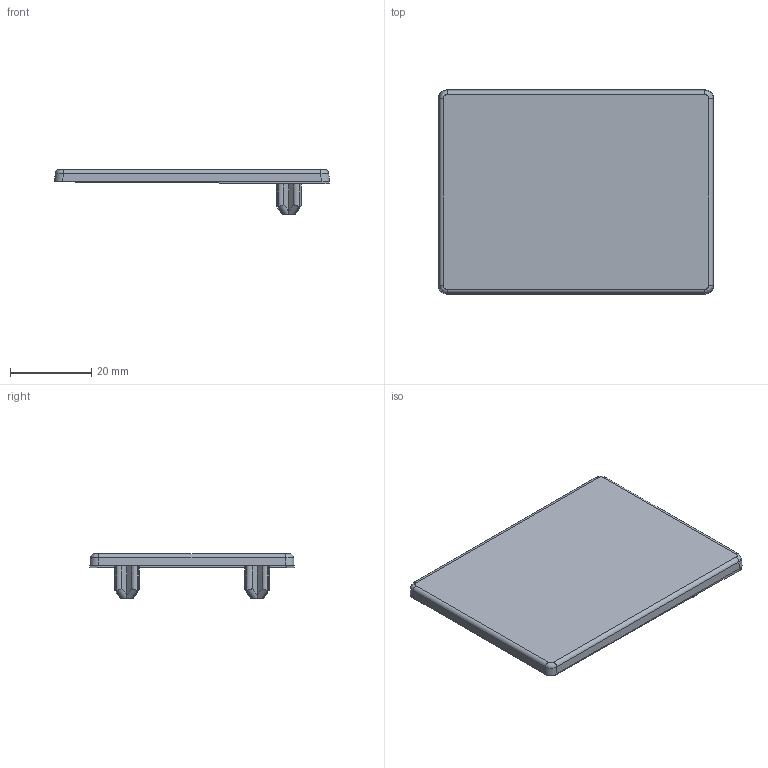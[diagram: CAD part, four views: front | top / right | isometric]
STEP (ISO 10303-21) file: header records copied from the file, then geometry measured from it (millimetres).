
FILE_DESCRIPTION(/* description */ ('Cover cap 50.67,5 Telescope profile '),/* implementation_level */ '2;1');
FILE_NAME(/* name */ 'PA1600060001.stp',/* time_stamp */ '2024-02-07T13:54:00+01:00',/* author */ ('r.biemans'),/* organization */ ('BCK Holland B.V.'),/* preprocessor_version */ 'ST-DEVELOPER v19.2',/* originating_system */ 'Autodesk Inventor 2023',/* authorisation */ '');
FILE_SCHEMA (('AUTOMOTIVE_DESIGN { 1 0 10303 214 3 1 1 }'));
Length unit declared in the file: millimetre
Products named in the file (1): PA1600060001
Bounding box: 67.7 x 50.3 x 11 mm (x, y, z)
Volume: 7637.9 mm3; surface area: 8206.5 mm2
Topology: 1 solids, 1 shells, 162 faces, 369 edges, 218 vertices
Faces by surface type: cylinder 72, plane 60, torus 16, bspline 12, cone 2
Full cylindrical faces by diameter (mm): 2 x2, 4 x2
Entity records: 4644 total; most frequent: CARTESIAN_POINT 886, DIRECTION 839, ORIENTED_EDGE 738, EDGE_CURVE 369, AXIS2_PLACEMENT_3D 319, VERTEX_POINT 218, LINE 201, VECTOR 201
